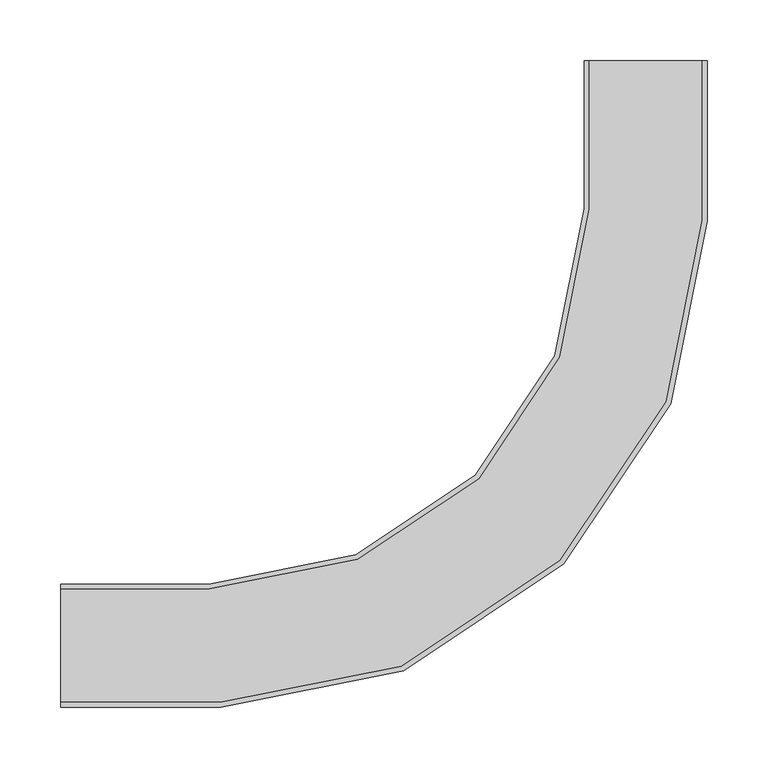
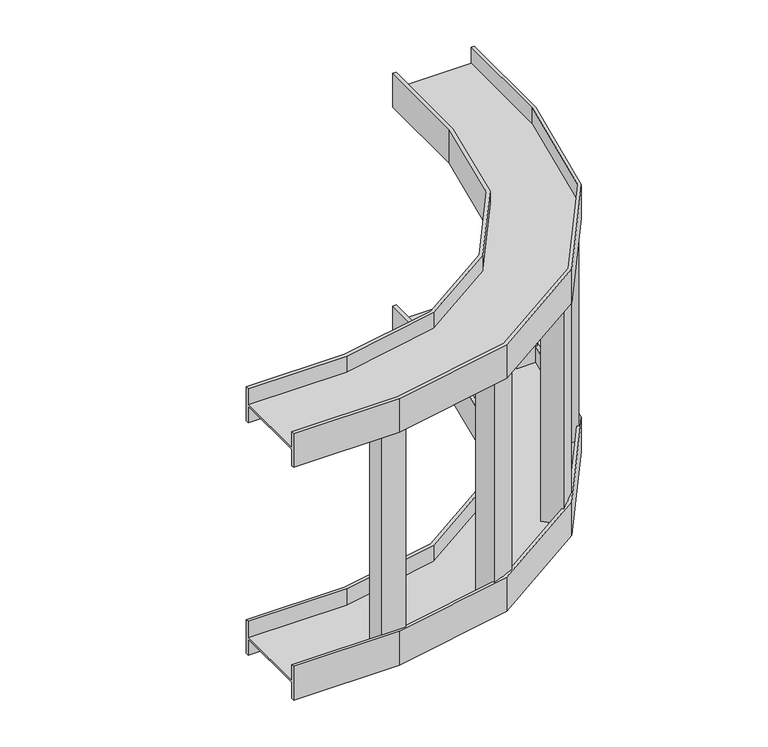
"""IFC4 building model written with IfcOpenShell, lengths in millimetres: cable carrier fitting geometry, CCI_Vertical_Inside_Bend-Basortrav : Basortrav CCI-12."""

import ifcopenshell
import ifcopenshell.guid

model = None  # the IFC model being written
_history = None  # IfcOwnerHistory: only IFC2X3 demands one
_inside = {}  # id of a spatial element -> (the spatial element, [elements in it])
_under = {}  # id of a project, library or spatial element -> (it, [spatial elements below it])
_declared = {}  # id of a project -> (the project, [libraries it declares])
_typed = {}  # id of a type object -> (the type object, [elements of that type])
_made_of = {}  # id of a material, layer set ... -> (it, [elements and type objects made of it])


def new_model(schema):
    """Start an empty IFC model of exactly this schema.

    Asked for "IFC4X3", IfcOpenShell would pick the latest addendum, in which some entities
    have other attributes; the version numbers below select the first issue.
    IFC2X3 requires an IfcOwnerHistory on every rooted entity: one is made here for all.
    """
    global model, _history
    if schema == "IFC4X3":
        model = ifcopenshell.file(schema_version=(4, 3, 0, 0))
    else:
        model = ifcopenshell.file(schema=schema)
    _inside.clear()
    _under.clear()
    _declared.clear()
    _typed.clear()
    _made_of.clear()
    _history = None
    if model.schema == "IFC2X3":
        org = make("IfcOrganization", Name="unknown")
        user = make(
            "IfcPersonAndOrganization",
            ThePerson=make("IfcPerson", FamilyName="unknown"),
            TheOrganization=org,
        )
        app = make(
            "IfcApplication",
            ApplicationDeveloper=org,
            Version="unknown",
            ApplicationFullName="unknown",
            ApplicationIdentifier="unknown",
        )
        _history = make(
            "IfcOwnerHistory",
            OwningUser=user,
            OwningApplication=app,
            ChangeAction="ADDED",
            CreationDate=0,
        )
    return model


def make(cls, **values):
    """One entity of the class cls with the attributes given. An attribute that is None is left unset."""
    return model.create_entity(
        cls, **{name: value for name, value in values.items() if value is not None}
    )


def rooted(cls, **values):
    """An entity with a GlobalId (a new one), such as an element, a storey or a relation."""
    return make(cls, GlobalId=ifcopenshell.guid.new(), OwnerHistory=_history, **values)


def si_unit(unit_type, name, prefix=None):
    """IfcSIUnit, for example si_unit("LENGTHUNIT", "METRE", prefix="MILLI")."""
    return make("IfcSIUnit", UnitType=unit_type, Prefix=prefix, Name=name)


def assignment(units):
    """IfcUnitAssignment: the units of a project."""
    return None if units is None else make("IfcUnitAssignment", Units=units)


def point(xyz):
    """IfcCartesianPoint."""
    return None if xyz is None else make("IfcCartesianPoint", Coordinates=xyz)


def direction(xyz):
    """IfcDirection."""
    return None if xyz is None else make("IfcDirection", DirectionRatios=xyz)


def frame(location, z_axis=None, x_axis=None):
    """IfcAxis2Placement3D, a coordinate frame: its origin and axes. An axis left out is left unset."""
    return make(
        "IfcAxis2Placement3D",
        Location=point(location),
        Axis=direction(z_axis),
        RefDirection=direction(x_axis),
    )


def origin():
    """The frame at (0, 0, 0) with its axes left unset."""
    return frame((0.0, 0.0, 0.0))


def place(relative_to, where):
    """IfcLocalPlacement: puts the frame where relative to a parent placement (None: the world)."""
    return make(
        "IfcLocalPlacement", PlacementRelTo=relative_to, RelativePlacement=where
    )


def context(
    kind, dimensions, precision=None, world=None, true_north=None, identifier=None
):
    """IfcGeometricRepresentationContext, for example the 3D "Model" context."""
    return make(
        "IfcGeometricRepresentationContext",
        ContextIdentifier=identifier,
        ContextType=kind,
        CoordinateSpaceDimension=dimensions,
        Precision=precision,
        WorldCoordinateSystem=world,
        TrueNorth=true_north,
    )


def project(units=None, contexts=None):
    """IfcProject with its units and contexts."""
    return rooted(
        "IfcProject",
        Name="project",
        RepresentationContexts=contexts,
        UnitsInContext=assignment(units),
    )


def spatial(cls, under=None, at=None, **own):
    """A site, building, storey or space (cls), placed at a placement, below another one or the project."""
    s = rooted(cls, ObjectPlacement=at, **own)
    if under is not None:
        _under.setdefault(under.id(), (under, []))[1].append(s)
    return s


def polyline(points):
    """IfcPolyline through the points."""
    return make("IfcPolyline", Points=[point(p) for p in points])


def outline(outer, holes=None, kind="AREA"):
    """IfcArbitraryClosedProfileDef: a profile drawn as a closed curve; with holes, ...WithVoids."""
    if holes is None:
        return make("IfcArbitraryClosedProfileDef", ProfileType=kind, OuterCurve=outer)
    return make(
        "IfcArbitraryProfileDefWithVoids",
        ProfileType=kind,
        OuterCurve=outer,
        InnerCurves=holes,
    )


def extrude(swept, where, along, depth):
    """IfcExtrudedAreaSolid: the profile swept, set in the frame where, extruded along a direction by depth."""
    return make(
        "IfcExtrudedAreaSolid",
        SweptArea=swept,
        Position=where,
        ExtrudedDirection=direction(along),
        Depth=depth,
    )


def faces_of(points, faces, orient=None, outer=None):
    """IfcFace entities. A face is a list of loops; a loop is a list of indices into points, from 0.

    orient and outer hold one flag for each loop. By default every Orientation is true, the
    first loop of a face is its IfcFaceOuterBound and the others are IfcFaceBound.
    """
    made = []
    for i, loops in enumerate(faces):
        bounds = []
        for j, loop in enumerate(loops):
            is_outer = j == 0 if outer is None else outer[i][j]
            bounds.append(
                make(
                    "IfcFaceOuterBound" if is_outer else "IfcFaceBound",
                    Bound=make("IfcPolyLoop", Polygon=[points[k] for k in loop]),
                    Orientation=True if orient is None else orient[i][j],
                )
            )
        made.append(make("IfcFace", Bounds=bounds))
    return made


def faceted_brep(points, faces, orient=None, outer=None, voids=None):
    """IfcFacetedBrep: a solid bounded by flat faces; with voids (closed shells), ...WithVoids."""
    shared = [point(p) for p in points]
    hull = make("IfcClosedShell", CfsFaces=faces_of(shared, faces, orient, outer))
    if voids is None:
        return make("IfcFacetedBrep", Outer=hull)
    return make(
        "IfcFacetedBrepWithVoids",
        Outer=hull,
        Voids=[
            make(cls, CfsFaces=faces_of(shared, fs, o, b)) for cls, fs, o, b in voids
        ],
    )


def shape(context_of_items, identifier, shape_type, items):
    """IfcShapeRepresentation: the items that make up one representation, for example the "Body"."""
    return make(
        "IfcShapeRepresentation",
        ContextOfItems=context_of_items,
        RepresentationIdentifier=identifier,
        RepresentationType=shape_type,
        Items=items,
    )


def source(mapping_origin, context_of_items, identifier, shape_type, items):
    """IfcRepresentationMap: a shape defined once, which mapped items show again and again."""
    return make(
        "IfcRepresentationMap",
        MappingOrigin=mapping_origin,
        MappedRepresentation=shape(context_of_items, identifier, shape_type, items),
    )


def transform(
    local_origin,
    x_axis=None,
    y_axis=None,
    z_axis=None,
    scale=None,
    scale2=None,
    scale3=None,
    uniform=True,
):
    """IfcCartesianTransformationOperator3D, or its non-uniform kind. x_axis, y_axis, z_axis: its Axis1, 2, 3."""
    if uniform:
        return make(
            "IfcCartesianTransformationOperator3D",
            Axis1=direction(x_axis),
            Axis2=direction(y_axis),
            LocalOrigin=point(local_origin),
            Scale=scale,
            Axis3=direction(z_axis),
        )
    return make(
        "IfcCartesianTransformationOperator3DnonUniform",
        Axis1=direction(x_axis),
        Axis2=direction(y_axis),
        LocalOrigin=point(local_origin),
        Scale=scale,
        Axis3=direction(z_axis),
        Scale2=scale2,
        Scale3=scale3,
    )


def mapped(mapping_source, mapping_target):
    """IfcMappedItem: shows the shape of a source again, moved by a transform."""
    return make(
        "IfcMappedItem", MappingSource=mapping_source, MappingTarget=mapping_target
    )


def made_of(thing, what):
    """Note that an element or type object is made of a material, layer set ...; save() writes the relation."""
    if what is not None:
        _made_of.setdefault(what.id(), (what, []))[1].append(thing)
    return thing


def element(
    cls,
    number,
    at=None,
    inside=None,
    cuts=None,
    type_object=None,
    material=None,
    context=None,
    identifier="Body",
    shape_type=None,
    held_by="IfcProductDefinitionShape",
    body=None,
    shapes=None,
    **own,
):
    """One element of the class cls, such as IfcWall. Its Tag is "e" and its number.

    at: its placement. inside: the storey or other place that contains it. cuts: it is an
    opening in that element (IfcRelVoidsElement). A single representation is given by context,
    identifier, shape_type and body (its items); several are given by shapes. held_by: the class
    of the entity that holds the representations. save() writes the other relations.
    """
    e = rooted(cls, Tag="e%d" % number, ObjectPlacement=at, **own)
    if body is not None:
        shapes = [shape(context, identifier, shape_type, body)]
    if shapes is not None:
        e.Representation = make(held_by, Representations=shapes)
    if inside is not None:
        _inside.setdefault(inside.id(), (inside, []))[1].append(e)
    if cuts is not None:
        rooted(
            "IfcRelVoidsElement", RelatingBuildingElement=cuts, RelatedOpeningElement=e
        )
    if type_object is not None:
        _typed.setdefault(type_object.id(), (type_object, []))[1].append(e)
    return made_of(e, material)


def aggregate(whole, parts):
    """IfcRelAggregates: a whole, such as a stair, and the parts it consists of."""
    return rooted("IfcRelAggregates", RelatingObject=whole, RelatedObjects=parts)


def save(model, path):
    """Write the relations noted so far, then the file.

    IfcRelAggregates (storeys below a building ...), IfcRelContainedInSpatialStructure (elements
    in a storey), IfcRelDefinesByType, IfcRelAssociatesMaterial and IfcRelDeclares: one each for
    every whole, place, type object, material and project.
    """
    for whole, parts in _under.values():
        aggregate(whole, parts)
    for where, things in _inside.values():
        rooted(
            "IfcRelContainedInSpatialStructure",
            RelatedElements=things,
            RelatingStructure=where,
        )
    for kind, things in _typed.values():
        rooted("IfcRelDefinesByType", RelatedObjects=things, RelatingType=kind)
    for what, things in _made_of.values():
        rooted("IfcRelAssociatesMaterial", RelatedObjects=things, RelatingMaterial=what)
    for by, libraries in _declared.values():
        rooted("IfcRelDeclares", RelatingContext=by, RelatedDefinitions=libraries)
    model.write(path)


def cable_carrier_fitting_dc6e4f22(model_context):
    return source(origin(), model_context, "Body", "SolidModel", [
        faceted_brep([(-482.6, 46.8, 175.5115599), (-482.6, 50.8, 175.5115599), (-482.6, 50.8, 131.0115599), (-482.6, 46.8, 131.0115599), (-482.6, 46.8, 152.4), (-482.6, -46.8, 152.4), (-482.6, -46.8, 131.0115599), (-482.6, -50.8, 131.0115599), (-482.6, -50.8, 175.5115599), (-482.6, -46.8, 175.5115599), (-482.6, -46.8, 154.4), (-482.6, 46.8, 154.4), (-46.8, 482.6, 175.5115599), (-46.8, 482.6, 154.4), (46.8, 482.6, 154.4), (46.8, 482.6, 175.5115599), (50.8, 482.6, 175.5115599), (50.8, 482.6, 131.0115599), (46.8, 482.6, 131.0115599), (46.8, 482.6, 152.4), (-46.8, 482.6, 152.4), (-46.8, 482.6, 131.0115599), (-50.8, 482.6, 131.0115599), (-50.8, 482.6, 175.5115599), (-360.2093977, 46.8, 175.5115599), (-237.7782256, 71.1530743, 175.5115599), (-137.8937483, 137.8937483, 175.5115599), (-71.1530743, 237.7782256, 175.5115599), (-46.8, 360.2093977, 175.5115599), (-50.8, 360.6033633, 175.5115599), (-74.9209919, 239.3389482, 175.5115599), (-140.7775876, 140.7775876, 175.5115599), (-239.3389482, 74.9209919, 175.5115599), (-360.6033633, 50.8, 175.5115599), (-360.6033633, 50.8, 131.0115599), (-239.3389482, 74.9209919, 131.0115599), (-140.7775876, 140.7775876, 131.0115599), (-74.9209919, 239.3389482, 131.0115599), (-50.8, 360.6033633, 131.0115599), (-46.8, 360.2093977, 131.0115599), (-71.1530743, 237.7782256, 131.0115599), (-137.8937483, 137.8937483, 131.0115599), (-237.7782256, 71.1530743, 131.0115599), (-360.2093977, 46.8, 131.0115599), (-360.2093977, 46.8, 152.4), (-237.7782256, 71.1530743, 152.4), (-137.8937483, 137.8937483, 152.4), (-71.1530743, 237.7782256, 152.4), (-46.8, 360.2093977, 152.4), (46.8, 350.9906023, 152.4), (17.0161978, 201.2573173, 152.4), (-70.4119089, 70.4119089, 152.4), (-201.2573173, -17.0161978, 152.4), (-350.9906023, -46.8, 152.4), (-350.9906023, -46.8, 131.0115599), (-201.2573173, -17.0161978, 131.0115599), (-70.4119089, 70.4119089, 131.0115599), (17.0161978, 201.2573173, 131.0115599), (46.8, 350.9906023, 131.0115599), (50.8, 350.5966367, 131.0115599), (20.7841154, 199.6965947, 131.0115599), (-67.5280697, 67.5280697, 131.0115599), (-199.6965947, -20.7841154, 131.0115599), (-350.5966367, -50.8, 131.0115599), (-350.5966367, -50.8, 175.5115599), (-199.6965947, -20.7841154, 175.5115599), (-67.5280697, 67.5280697, 175.5115599), (20.7841154, 199.6965947, 175.5115599), (50.8, 350.5966367, 175.5115599), (46.8, 350.9906023, 175.5115599), (17.0161978, 201.2573173, 175.5115599), (-70.4119089, 70.4119089, 175.5115599), (-201.2573173, -17.0161978, 175.5115599), (-350.9906023, -46.8, 175.5115599), (-350.9906023, -46.8, 154.4), (-201.2573173, -17.0161978, 154.4), (-70.4119089, 70.4119089, 154.4), (17.0161978, 201.2573173, 154.4), (46.8, 350.9906023, 154.4), (-46.8, 360.2093977, 154.4), (-71.1530743, 237.7782256, 154.4), (-137.8937483, 137.8937483, 154.4), (-237.7782256, 71.1530743, 154.4), (-360.2093977, 46.8, 154.4)], [[[0, 1, 2, 3, 4, 5, 6, 7, 8, 9, 10, 11]], [[12, 13, 14, 15, 16, 17, 18, 19, 20, 21, 22, 23]], [[1, 0, 24, 25, 26, 27, 28, 12, 23, 29, 30, 31, 32, 33]], [[2, 1, 33, 34]], [[3, 2, 34, 35, 36, 37, 38, 22, 21, 39, 40, 41, 42, 43]], [[4, 3, 43, 44]], [[5, 4, 44, 45, 46, 47, 48, 20, 19, 49, 50, 51, 52, 53]], [[6, 5, 53, 54]], [[7, 6, 54, 55, 56, 57, 58, 18, 17, 59, 60, 61, 62, 63]], [[8, 7, 63, 64]], [[9, 8, 64, 65, 66, 67, 68, 16, 15, 69, 70, 71, 72, 73]], [[10, 9, 73, 74]], [[11, 10, 74, 75, 76, 77, 78, 14, 13, 79, 80, 81, 82, 83]], [[0, 11, 83, 24]], [[34, 33, 32, 35]], [[44, 43, 42, 45]], [[54, 53, 52, 55]], [[64, 63, 62, 65]], [[74, 73, 72, 75]], [[24, 83, 82, 25]], [[35, 32, 31, 36]], [[45, 42, 41, 46]], [[55, 52, 51, 56]], [[65, 62, 61, 66]], [[75, 72, 71, 76]], [[25, 82, 81, 26]], [[36, 31, 30, 37]], [[46, 41, 40, 47]], [[56, 51, 50, 57]], [[66, 61, 60, 67]], [[76, 71, 70, 77]], [[26, 81, 80, 27]], [[37, 30, 29, 38]], [[47, 40, 39, 48]], [[57, 50, 49, 58]], [[67, 60, 59, 68]], [[77, 70, 69, 78]], [[27, 80, 79, 28]], [[38, 29, 23, 22]], [[48, 39, 21, 20]], [[58, 49, 19, 18]], [[68, 59, 17, 16]], [[78, 69, 15, 14]], [[28, 79, 13, 12]]]),
        extrude(outline(polyline([(-1.4614939, 225.4175089), (22.0050462, 215.6973497), (10.3332015, 187.5190239), (-13.1333386, 197.2391831), (-1.4614939, 225.4175089)])), frame((0.0, 0.0, -152.4), z_axis=(0.0, 0.0, 1.0), x_axis=(1.0, 0.0, 0.0)), (0.0, 0.0, 1.0), 304.8),
        extrude(outline(polyline([(-197.2391831, 13.1333386), (-187.5190239, -10.3332015), (-215.6973497, -22.0050462), (-225.4175089, 1.4614939), (-197.2391831, 13.1333386)])), frame((0.0, 0.0, -152.4), z_axis=(0.0, 0.0, 1.0), x_axis=(1.0, 0.0, 0.0)), (0.0, 0.0, 1.0), 304.8),
        extrude(outline(polyline([(21.4, 370.85), (46.8, 370.85), (46.8, 340.35), (21.4, 340.35), (21.4, 370.85)])), frame((0.0, 0.0, -152.4), z_axis=(0.0, 0.0, 1.0), x_axis=(1.0, 0.0, 0.0)), (0.0, 0.0, 1.0), 304.8),
        extrude(outline(polyline([(-78.2373651, 99.8041219), (-60.2768528, 81.8436097), (-81.8436097, 60.2768528), (-99.8041219, 78.2373651), (-78.2373651, 99.8041219)])), frame((0.0, 0.0, -152.4), z_axis=(0.0, 0.0, 1.0), x_axis=(1.0, 0.0, 0.0)), (0.0, 0.0, 1.0), 304.8),
        extrude(outline(polyline([(-370.85, -46.8), (-370.85, -21.4), (-340.35, -21.4), (-340.35, -46.8), (-370.85, -46.8)])), frame((0.0, 0.0, -152.4), z_axis=(0.0, 0.0, 1.0), x_axis=(1.0, 0.0, 0.0)), (0.0, 0.0, 1.0), 304.8),
        faceted_brep([(-482.6, 46.8, -175.5115599), (-482.6, 46.8, -154.4), (-482.6, -46.8, -154.4), (-482.6, -46.8, -175.5115599), (-482.6, -50.8, -175.5115599), (-482.6, -50.8, -131.0115599), (-482.6, -46.8, -131.0115599), (-482.6, -46.8, -152.4), (-482.6, 46.8, -152.4), (-482.6, 46.8, -131.0115599), (-482.6, 50.8, -131.0115599), (-482.6, 50.8, -175.5115599), (-46.8, 482.6, -175.5115599), (-50.8, 482.6, -175.5115599), (-50.8, 482.6, -131.0115599), (-46.8, 482.6, -131.0115599), (-46.8, 482.6, -152.4), (46.8, 482.6, -152.4), (46.8, 482.6, -131.0115599), (50.8, 482.6, -131.0115599), (50.8, 482.6, -175.5115599), (46.8, 482.6, -175.5115599), (46.8, 482.6, -154.4), (-46.8, 482.6, -154.4), (-360.2093977, 46.8, -175.5115599), (-360.2093977, 46.8, -154.4), (-237.7782256, 71.1530743, -154.4), (-137.8937483, 137.8937483, -154.4), (-71.1530743, 237.7782256, -154.4), (-46.8, 360.2093977, -154.4), (46.8, 350.9906023, -154.4), (17.0161978, 201.2573173, -154.4), (-70.4119089, 70.4119089, -154.4), (-201.2573173, -17.0161978, -154.4), (-350.9906023, -46.8, -154.4), (-350.9906023, -46.8, -175.5115599), (-201.2573173, -17.0161978, -175.5115599), (-70.4119089, 70.4119089, -175.5115599), (17.0161978, 201.2573173, -175.5115599), (46.8, 350.9906023, -175.5115599), (50.8, 350.5966367, -175.5115599), (20.7841154, 199.6965947, -175.5115599), (-67.5280697, 67.5280697, -175.5115599), (-199.6965947, -20.7841154, -175.5115599), (-350.5966367, -50.8, -175.5115599), (-350.5966367, -50.8, -131.0115599), (-199.6965947, -20.7841154, -131.0115599), (-67.5280697, 67.5280697, -131.0115599), (20.7841154, 199.6965947, -131.0115599), (50.8, 350.5966367, -131.0115599), (46.8, 350.9906023, -131.0115599), (17.0161978, 201.2573173, -131.0115599), (-70.4119089, 70.4119089, -131.0115599), (-201.2573173, -17.0161978, -131.0115599), (-350.9906023, -46.8, -131.0115599), (-350.9906023, -46.8, -152.4), (-201.2573173, -17.0161978, -152.4), (-70.4119089, 70.4119089, -152.4), (17.0161978, 201.2573173, -152.4), (46.8, 350.9906023, -152.4), (-46.8, 360.2093977, -152.4), (-71.1530743, 237.7782256, -152.4), (-137.8937483, 137.8937483, -152.4), (-237.7782256, 71.1530743, -152.4), (-360.2093977, 46.8, -152.4), (-360.2093977, 46.8, -131.0115599), (-237.7782256, 71.1530743, -131.0115599), (-137.8937483, 137.8937483, -131.0115599), (-71.1530743, 237.7782256, -131.0115599), (-46.8, 360.2093977, -131.0115599), (-50.8, 360.6033633, -131.0115599), (-74.9209919, 239.3389482, -131.0115599), (-140.7775876, 140.7775876, -131.0115599), (-239.3389482, 74.9209919, -131.0115599), (-360.6033633, 50.8, -131.0115599), (-360.6033633, 50.8, -175.5115599), (-239.3389482, 74.9209919, -175.5115599), (-140.7775876, 140.7775876, -175.5115599), (-74.9209919, 239.3389482, -175.5115599), (-50.8, 360.6033633, -175.5115599), (-46.8, 360.2093977, -175.5115599), (-71.1530743, 237.7782256, -175.5115599), (-137.8937483, 137.8937483, -175.5115599), (-237.7782256, 71.1530743, -175.5115599)], [[[0, 1, 2, 3, 4, 5, 6, 7, 8, 9, 10, 11]], [[12, 13, 14, 15, 16, 17, 18, 19, 20, 21, 22, 23]], [[1, 0, 24, 25]], [[2, 1, 25, 26, 27, 28, 29, 23, 22, 30, 31, 32, 33, 34]], [[3, 2, 34, 35]], [[4, 3, 35, 36, 37, 38, 39, 21, 20, 40, 41, 42, 43, 44]], [[5, 4, 44, 45]], [[6, 5, 45, 46, 47, 48, 49, 19, 18, 50, 51, 52, 53, 54]], [[7, 6, 54, 55]], [[8, 7, 55, 56, 57, 58, 59, 17, 16, 60, 61, 62, 63, 64]], [[9, 8, 64, 65]], [[10, 9, 65, 66, 67, 68, 69, 15, 14, 70, 71, 72, 73, 74]], [[11, 10, 74, 75]], [[0, 11, 75, 76, 77, 78, 79, 13, 12, 80, 81, 82, 83, 24]], [[29, 80, 12, 23]], [[39, 30, 22, 21]], [[49, 40, 20, 19]], [[59, 50, 18, 17]], [[69, 60, 16, 15]], [[79, 70, 14, 13]], [[25, 24, 83, 26]], [[35, 34, 33, 36]], [[45, 44, 43, 46]], [[55, 54, 53, 56]], [[65, 64, 63, 66]], [[75, 74, 73, 76]], [[26, 83, 82, 27]], [[36, 33, 32, 37]], [[46, 43, 42, 47]], [[56, 53, 52, 57]], [[66, 63, 62, 67]], [[76, 73, 72, 77]], [[27, 82, 81, 28]], [[37, 32, 31, 38]], [[47, 42, 41, 48]], [[57, 52, 51, 58]], [[67, 62, 61, 68]], [[77, 72, 71, 78]], [[28, 81, 80, 29]], [[38, 31, 30, 39]], [[48, 41, 40, 49]], [[58, 51, 50, 59]], [[68, 61, 60, 69]], [[78, 71, 70, 79]]]),
    ])


if __name__ == "__main__":
    model = new_model("IFC4")
    model_context = context("Model", 3, world=origin())
    ifc_project = project(units=[si_unit("LENGTHUNIT", "METRE", prefix="MILLI")], contexts=[model_context])
    site = spatial("IfcSite", under=ifc_project)
    building = spatial("IfcBuilding", under=site)
    placement = place(None, origin())
    cable_carrier_fitting_shape = cable_carrier_fitting_dc6e4f22(model_context)
    element("IfcCableCarrierFitting", 1, ObjectType="CCI_Vertical_Inside_Bend-Basortrav : Basortrav CCI-12", at=placement, inside=building, context=model_context, shape_type="MappedRepresentation", body=[
        mapped(cable_carrier_fitting_shape, transform((0.0, 0.0, 0.0), x_axis=(1.0, 0.0, 0.0), y_axis=(0.0, 1.0, 0.0), z_axis=(0.0, 0.0, 1.0))),
    ])
    save(model, "model.ifc")
